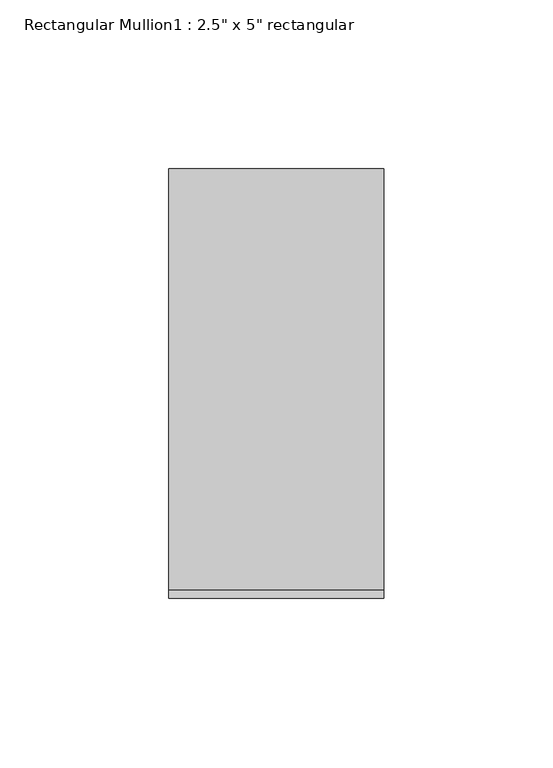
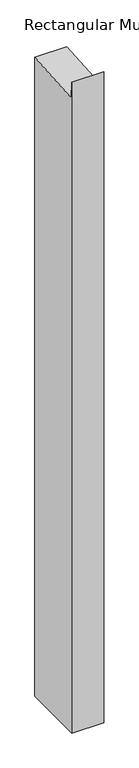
"""IFC4 building model written with IfcOpenShell, lengths in millimetres: member geometry."""

from ifc_helpers import new_model, si_unit, frame, origin, place, context, project, spatial, polyline, outline, extrude, source, transform, mapped, element, save


def member_58fb4e6d(model_context):
    return source(origin(), model_context, "Body", "SweptSolid", [
        extrude(outline(polyline([(-63.5, 29.3948455), (-60.9736199, -4.616608), (63.5, 4.6293267), (63.5, -1339.4207165), (-63.5, -1339.4207165), (-63.5, 29.3948455)])), frame((-63.5, 0.0, 0.0), z_axis=(1.0, 0.0, 0.0), x_axis=(0.0, 1.0, 0.0)), (0.0, 0.0, 1.0), 63.5),
    ])


if __name__ == "__main__":
    model = new_model("IFC4")
    model_context = context("Model", 3, world=origin())
    ifc_project = project(units=[si_unit("LENGTHUNIT", "METRE", prefix="MILLI")], contexts=[model_context])
    site = spatial("IfcSite", under=ifc_project)
    building = spatial("IfcBuilding", under=site)
    placement = place(None, origin())
    member_shape = member_58fb4e6d(model_context)
    element("IfcMember", 1, ObjectType="Rectangular Mullion1 : 2.5\" x 5\" rectangular", at=placement, inside=building, context=model_context, shape_type="MappedRepresentation", body=[
        mapped(member_shape, transform((0.0, 0.0, 0.0), x_axis=(1.0, 0.0, 0.0), y_axis=(0.0, 1.0, 0.0), z_axis=(0.0, 0.0, 1.0))),
    ])
    save(model, "model.ifc")
